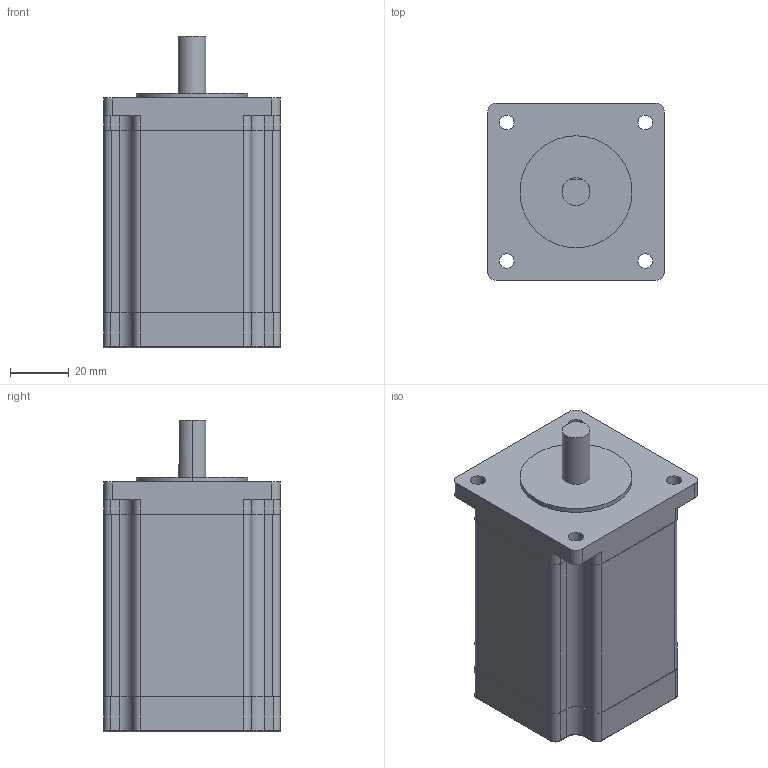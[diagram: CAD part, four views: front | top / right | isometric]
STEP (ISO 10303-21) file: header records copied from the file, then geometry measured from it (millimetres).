
FILE_DESCRIPTION (( 'STEP AP203' ), '1' );
FILE_NAME ('D57CM31-4A-0-I9.STEP', '2021-04-28T09:08:31', ( 'Owner' ), ( 'Organization' ), 'SwSTEP 2.0', 'SolidWorks 2018', '' );
FILE_SCHEMA (( 'CONFIG_CONTROL_DESIGN' ));
Length unit declared in the file: millimetre
Products named in the file (1): D57CM31-4A-0-I9
Bounding box: 60.2 x 60.2 x 106 mm (x, y, z)
Volume: 277748.6 mm3; surface area: 27461.1 mm2
Topology: 1 solids, 1 shells, 127 faces, 336 edges, 216 vertices
Faces by surface type: cylinder 66, plane 49, bspline 12
Entity records: 4449 total; most frequent: CARTESIAN_POINT 1156, DIRECTION 690, ORIENTED_EDGE 672, EDGE_CURVE 336, AXIS2_PLACEMENT_3D 250, VERTEX_POINT 216, LINE 190, VECTOR 190
